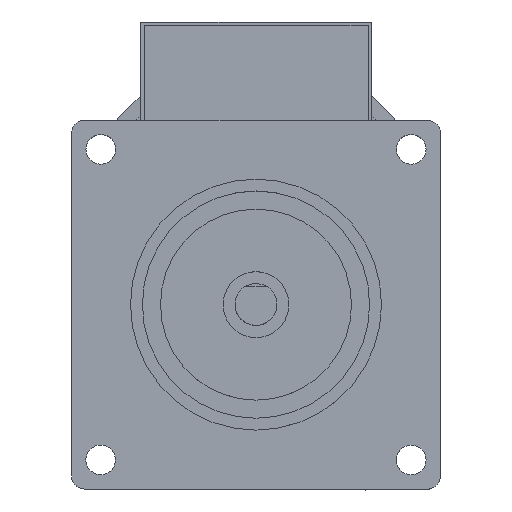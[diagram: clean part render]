
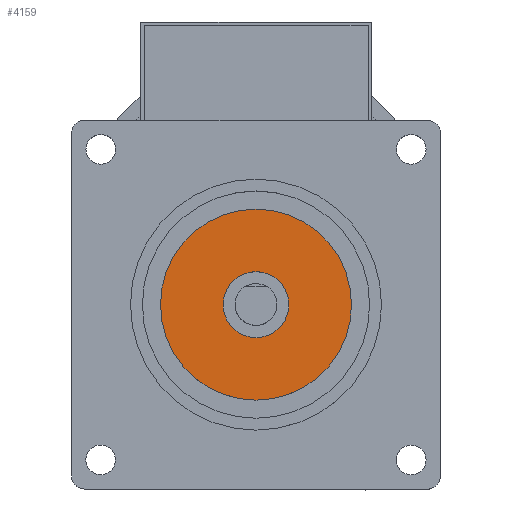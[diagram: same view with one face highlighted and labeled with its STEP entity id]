
A CAD part, top view. The second image highlights one B-rep face of the part: STEP entity #4159.
In plain terms, the highlighted planar face has unit normal (0, 0, 1).
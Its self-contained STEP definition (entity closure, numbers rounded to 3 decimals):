
#704 = VERTEX_POINT ( 'NONE', #9927 ) ;
#706 = VERTEX_POINT ( 'NONE', #9929 ) ;
#712 = VERTEX_POINT ( 'NONE', #9935 ) ;
#714 = VERTEX_POINT ( 'NONE', #9937 ) ;
#1559 = EDGE_LOOP ( 'NONE', ( #5709, #5710 ) ) ;
#1570 = EDGE_LOOP ( 'NONE', ( #5707, #5708 ) ) ;
#4159 = ADVANCED_FACE ( 'NONE', ( #18237, #18238 ), #19899, .T. ) ;
#5707 = ORIENTED_EDGE ( 'NONE', *, *, #8639, .T. ) ;
#5708 = ORIENTED_EDGE ( 'NONE', *, *, #8642, .T. ) ;
#5709 = ORIENTED_EDGE ( 'NONE', *, *, #8635, .T. ) ;
#5710 = ORIENTED_EDGE ( 'NONE', *, *, #8643, .T. ) ;
#8635 = EDGE_CURVE ( 'NONE', #706, #704, #21352, .T. ) ;
#8639 = EDGE_CURVE ( 'NONE', #714, #712, #21358, .T. ) ;
#8642 = EDGE_CURVE ( 'NONE', #712, #714, #21361, .T. ) ;
#8643 = EDGE_CURVE ( 'NONE', #704, #706, #21362, .T. ) ;
#9488 = AXIS2_PLACEMENT_3D ( 'NONE', #19900, #19901, #19902 ) ;
#9927 = CARTESIAN_POINT ( 'NONE',  ( -84.967, 69.626, 137.22 ) ) ;
#9929 = CARTESIAN_POINT ( 'NONE',  ( -55.967, 69.616, 137.22 ) ) ;
#9935 = CARTESIAN_POINT ( 'NONE',  ( -75.467, 69.623, 137.22 ) ) ;
#9937 = CARTESIAN_POINT ( 'NONE',  ( -65.467, 69.619, 137.22 ) ) ;
#18237 = FACE_BOUND ( 'NONE', #1570, .T. ) ;
#18238 = FACE_OUTER_BOUND ( 'NONE', #1559, .T. ) ;
#19899 = PLANE ( 'NONE',  #9488 ) ;
#19900 = CARTESIAN_POINT ( 'NONE',  ( -85.145, 54.952, 137.22 ) ) ;
#19901 = DIRECTION ( 'NONE',  ( 0., 0., 1. ) ) ;
#19902 = DIRECTION ( 'NONE',  ( 1., 0., 0. ) ) ;
#21352 = CIRCLE ( 'NONE', #21716, 14.5 ) ;
#21358 = CIRCLE ( 'NONE', #21718, 5. ) ;
#21361 = CIRCLE ( 'NONE', #21720, 5. ) ;
#21362 = CIRCLE ( 'NONE', #21721, 14.5 ) ;
#21716 = AXIS2_PLACEMENT_3D ( 'NONE', #22102, #22103, #22104 ) ;
#21718 = AXIS2_PLACEMENT_3D ( 'NONE', #22112, #22113, #22114 ) ;
#21720 = AXIS2_PLACEMENT_3D ( 'NONE', #22120, #22121, #22122 ) ;
#21721 = AXIS2_PLACEMENT_3D ( 'NONE', #22123, #22124, #22125 ) ;
#22102 = CARTESIAN_POINT ( 'NONE',  ( -70.467, 69.621, 137.22 ) ) ;
#22103 = DIRECTION ( 'NONE',  ( 0., 0., 1. ) ) ;
#22104 = DIRECTION ( 'NONE',  ( 1., 0., 0. ) ) ;
#22112 = CARTESIAN_POINT ( 'NONE',  ( -70.467, 69.621, 137.22 ) ) ;
#22113 = DIRECTION ( 'NONE',  ( 0., 0., -1. ) ) ;
#22114 = DIRECTION ( 'NONE',  ( 1., 0., 0. ) ) ;
#22120 = CARTESIAN_POINT ( 'NONE',  ( -70.467, 69.621, 137.22 ) ) ;
#22121 = DIRECTION ( 'NONE',  ( 0., 0., -1. ) ) ;
#22122 = DIRECTION ( 'NONE',  ( 1., 0., 0. ) ) ;
#22123 = CARTESIAN_POINT ( 'NONE',  ( -70.467, 69.621, 137.22 ) ) ;
#22124 = DIRECTION ( 'NONE',  ( 0., 0., 1. ) ) ;
#22125 = DIRECTION ( 'NONE',  ( 1., 0., 0. ) ) ;
